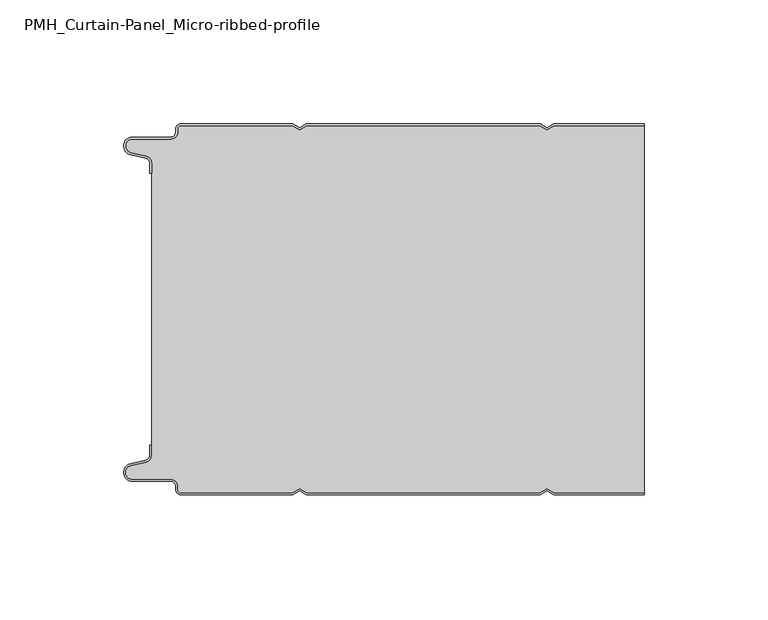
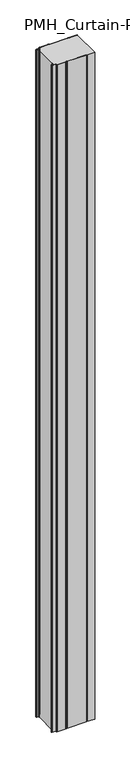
"""IFC4 building model written with IfcOpenShell, lengths in millimetres: plate geometry, PMH_Curtain-Panel_Micro-ribbed-profile : ACH_PMH_Stone-wool-Panel_150M."""

from ifc_helpers import new_model, si_unit, point, frame_2d, origin, origin_with_axes, place, context, project, spatial, polyline, circle_curve, trimmed, segment, composite_curve, outline, extrude, source, transform, mapped, element, save


def pmh_curtain_panel_micro_ribbed_profile_9c5b0974(model_context):
    return source(origin(), model_context, "Body", "SweptSolid", [
        extrude(outline(composite_curve([segment(trimmed(circle_curve(frame_2d((-102.0, -15.878557)), 2.0), [point((-100.0, -15.878557))], [point((-101.5500978, -13.9298169))], True, "CARTESIAN"), True, "CONTINUOUS"), segment(polyline([(-101.5500978, -13.9298169), (-107.7098239, -12.507732)]), True, "CONTINUOUS"), segment(trimmed(circle_curve(frame_2d((-106.9, -9.0)), 3.6), [point((-107.7098239, -12.507732))], [point((-106.9, -5.4))], False, "CARTESIAN"), True, "CONTINUOUS"), segment(polyline([(-106.9, -5.4), (-91.4, -5.4)]), True, "CONTINUOUS"), segment(trimmed(circle_curve(frame_2d((-91.4, -3.4)), 2.0), [point((-91.4, -5.4))], [point((-89.4, -3.4))], True, "CARTESIAN"), True, "CONTINUOUS"), segment(polyline([(-89.4, -3.4), (-89.4, -2.0)]), True, "CONTINUOUS"), segment(trimmed(circle_curve(frame_2d((-87.4, -2.0)), 2.0), [point((-89.4, -2.0))], [point((-87.4, 0.0))], False, "CARTESIAN"), True, "CONTINUOUS"), segment(polyline([(-87.4, 0.0), (-42.0999995, 0.0), (-39.4, -1.5588455), (-36.7000005, 0.0), (57.9000005, 0.0), (60.6, -1.5588455), (63.2999995, 0.0), (100.0, 0.0), (100.0, -0.8), (63.5143588, -0.8), (60.6, -2.482606), (57.6856412, -0.8), (-36.4856412, -0.8), (-39.4, -2.482606), (-42.3143588, -0.8), (-87.4, -0.8)]), True, "CONTINUOUS"), segment(trimmed(circle_curve(frame_2d((-87.4, -2.0)), 1.2), [point((-87.4, -0.8))], [point((-88.6, -2.0))], True, "CARTESIAN"), True, "CONTINUOUS"), segment(polyline([(-88.6, -2.0), (-88.6, -3.4)]), True, "CONTINUOUS"), segment(trimmed(circle_curve(frame_2d((-91.4, -3.4)), 2.8), [point((-88.6, -3.4))], [point((-91.4, -6.2))], False, "CARTESIAN"), True, "CONTINUOUS"), segment(polyline([(-91.4, -6.2), (-106.9, -6.2)]), True, "CONTINUOUS"), segment(trimmed(circle_curve(frame_2d((-106.9, -9.0)), 2.8), [point((-106.9, -6.2))], [point((-107.529863, -11.7282362))], True, "CARTESIAN"), True, "CONTINUOUS"), segment(polyline([(-107.529863, -11.7282362), (-101.370137, -13.150321)]), True, "CONTINUOUS"), segment(trimmed(circle_curve(frame_2d((-102.0, -15.878557)), 2.8), [point((-101.370137, -13.150321))], [point((-99.2, -15.878557))], False, "CARTESIAN"), True, "CONTINUOUS"), segment(polyline([(-99.2, -15.878557), (-99.2, -20.0), (-100.0, -20.0), (-100.0, -15.878557)]), True, "CONTINUOUS")], self_intersect=False)), origin_with_axes(), (0.0, 0.0, 1.0), 3500.0),
        extrude(outline(composite_curve([segment(polyline([(-99.2, -134.1214426), (-99.2, -15.8785573)]), True, "CONTINUOUS"), segment(trimmed(circle_curve(frame_2d((-102.0, -15.8785573)), 2.8), [point((-99.2, -15.8785573))], [point((-101.370137, -13.1503212))], True, "CARTESIAN"), True, "CONTINUOUS"), segment(polyline([(-101.370137, -13.1503212), (-107.5298631, -11.7282362)]), True, "CONTINUOUS"), segment(trimmed(circle_curve(frame_2d((-106.9, -9.0)), 2.8), [point((-107.5298631, -11.7282362))], [point((-106.9, -6.2))], False, "CARTESIAN"), True, "CONTINUOUS"), segment(polyline([(-106.9, -6.2), (-91.4000001, -6.2)]), True, "CONTINUOUS"), segment(trimmed(circle_curve(frame_2d((-91.4000001, -3.4)), 2.8), [point((-91.4000001, -6.2))], [point((-88.6000001, -3.4))], True, "CARTESIAN"), True, "CONTINUOUS"), segment(polyline([(-88.6000001, -3.4), (-88.6000001, -2.0)]), True, "CONTINUOUS"), segment(trimmed(circle_curve(frame_2d((-87.4000001, -2.0)), 1.2), [point((-88.6000001, -2.0))], [point((-87.4000001, -0.8))], False, "CARTESIAN"), True, "CONTINUOUS"), segment(polyline([(-87.4000001, -0.8), (-42.3143589, -0.8), (-39.4000001, -2.482606), (-36.4856412, -0.8), (57.6856411, -0.8), (60.5999999, -2.482606), (63.5143588, -0.8), (100.0, -0.8), (100.0, -149.2), (63.5143588, -149.2), (60.5999999, -147.517394), (57.6856411, -149.2), (-36.4856412, -149.2), (-39.4000001, -147.517394), (-42.3143589, -149.2), (-87.4000001, -149.2)]), True, "CONTINUOUS"), segment(trimmed(circle_curve(frame_2d((-87.4000001, -148.0)), 1.2), [point((-87.4000001, -149.2))], [point((-88.6000001, -148.0))], False, "CARTESIAN"), True, "CONTINUOUS"), segment(polyline([(-88.6000001, -148.0), (-88.6000001, -146.6)]), True, "CONTINUOUS"), segment(trimmed(circle_curve(frame_2d((-91.4000001, -146.6)), 2.8), [point((-88.6000001, -146.6))], [point((-91.4000001, -143.8))], True, "CARTESIAN"), True, "CONTINUOUS"), segment(polyline([(-91.4000001, -143.8), (-106.9, -143.8)]), True, "CONTINUOUS"), segment(trimmed(circle_curve(frame_2d((-106.9, -141.0)), 2.8), [point((-106.9, -143.8))], [point((-107.5298631, -138.2717638))], False, "CARTESIAN"), True, "CONTINUOUS"), segment(polyline([(-107.5298631, -138.2717638), (-101.370137, -136.8496788)]), True, "CONTINUOUS"), segment(trimmed(circle_curve(frame_2d((-102.0, -134.1214426)), 2.8), [point((-101.370137, -136.8496788))], [point((-99.2, -134.1214426))], True, "CARTESIAN"), True, "CONTINUOUS")], self_intersect=False)), origin_with_axes(), (0.0, 0.0, 1.0), 3500.0),
        extrude(outline(composite_curve([segment(polyline([(-100.0, -134.121443), (-100.0, -130.0), (-99.2, -130.0), (-99.2, -134.121443)]), True, "CONTINUOUS"), segment(trimmed(circle_curve(frame_2d((-102.0, -134.121443)), 2.8), [point((-99.2, -134.121443))], [point((-101.370137, -136.8496792))], False, "CARTESIAN"), True, "CONTINUOUS"), segment(polyline([(-101.370137, -136.8496792), (-107.529863, -138.271764)]), True, "CONTINUOUS"), segment(trimmed(circle_curve(frame_2d((-106.9, -141.0)), 2.8), [point((-107.529863, -138.271764))], [point((-106.9, -143.8))], True, "CARTESIAN"), True, "CONTINUOUS"), segment(polyline([(-106.9, -143.8), (-91.4, -143.8)]), True, "CONTINUOUS"), segment(trimmed(circle_curve(frame_2d((-91.4, -146.6)), 2.8), [point((-91.4, -143.8))], [point((-88.6, -146.6))], False, "CARTESIAN"), True, "CONTINUOUS"), segment(polyline([(-88.6, -146.6), (-88.6, -148.0)]), True, "CONTINUOUS"), segment(trimmed(circle_curve(frame_2d((-87.4, -148.0)), 1.2), [point((-88.6, -148.0))], [point((-87.4, -149.2))], True, "CARTESIAN"), True, "CONTINUOUS"), segment(polyline([(-87.4, -149.2), (-42.3143588, -149.2), (-39.4, -147.517394), (-36.4856412, -149.2), (57.6856412, -149.2), (60.6, -147.517394), (63.5143588, -149.2), (100.0, -149.2), (100.0, -150.0), (63.2999995, -150.0), (60.6, -148.4411545), (57.9000005, -150.0), (-36.7000005, -150.0), (-39.4, -148.4411545), (-42.0999995, -150.0), (-87.4, -150.0)]), True, "CONTINUOUS"), segment(trimmed(circle_curve(frame_2d((-87.4, -148.0)), 2.0), [point((-87.4, -150.0))], [point((-89.4, -148.0))], False, "CARTESIAN"), True, "CONTINUOUS"), segment(polyline([(-89.4, -148.0), (-89.4, -146.6)]), True, "CONTINUOUS"), segment(trimmed(circle_curve(frame_2d((-91.4, -146.6)), 2.0), [point((-89.4, -146.6))], [point((-91.4, -144.6))], True, "CARTESIAN"), True, "CONTINUOUS"), segment(polyline([(-91.4, -144.6), (-106.9, -144.6)]), True, "CONTINUOUS"), segment(trimmed(circle_curve(frame_2d((-106.9, -141.0)), 3.6), [point((-106.9, -144.6))], [point((-107.7098239, -137.4922678))], False, "CARTESIAN"), True, "CONTINUOUS"), segment(polyline([(-107.7098239, -137.4922678), (-101.5500979, -136.070183)]), True, "CONTINUOUS"), segment(trimmed(circle_curve(frame_2d((-102.0, -134.121443)), 2.0), [point((-101.5500979, -136.070183))], [point((-100.0, -134.121443))], True, "CARTESIAN"), True, "CONTINUOUS")], self_intersect=False)), origin_with_axes(), (0.0, 0.0, 1.0), 3500.0),
    ])


if __name__ == "__main__":
    model = new_model("IFC4")
    model_context = context("Model", 3, world=origin())
    ifc_project = project(units=[si_unit("LENGTHUNIT", "METRE", prefix="MILLI")], contexts=[model_context])
    site = spatial("IfcSite", under=ifc_project)
    building = spatial("IfcBuilding", under=site)
    placement = place(None, origin())
    pmh_curtain_panel_micro_ribbed_profile_shape = pmh_curtain_panel_micro_ribbed_profile_9c5b0974(model_context)
    element("IfcPlate", 1, ObjectType="PMH_Curtain-Panel_Micro-ribbed-profile : ACH_PMH_Stone-wool-Panel_150M", at=placement, inside=building, context=model_context, shape_type="MappedRepresentation", body=[
        mapped(pmh_curtain_panel_micro_ribbed_profile_shape, transform((0.0, 0.0, 0.0), x_axis=(1.0, 0.0, 0.0), y_axis=(0.0, 1.0, 0.0), z_axis=(0.0, 0.0, 1.0))),
    ])
    save(model, "model.ifc")
